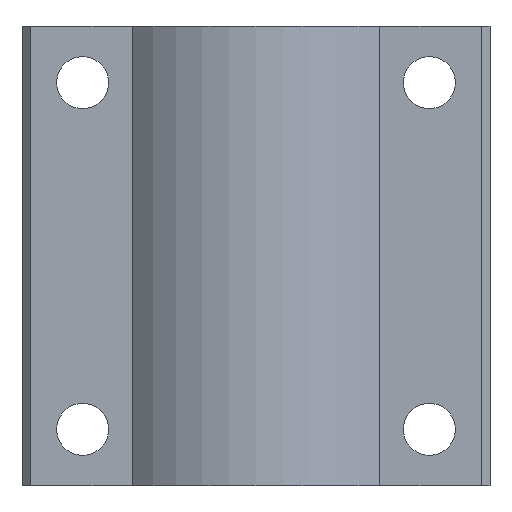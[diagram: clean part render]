
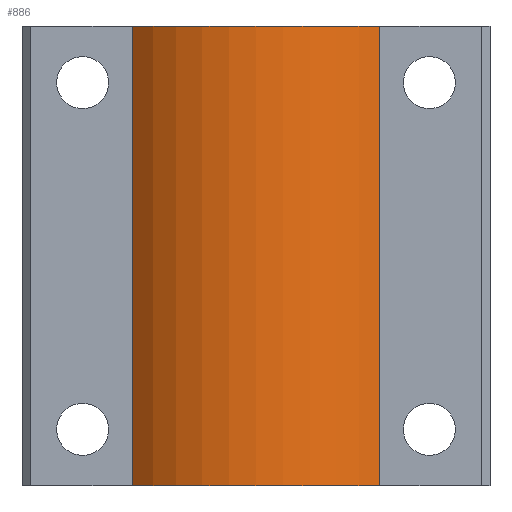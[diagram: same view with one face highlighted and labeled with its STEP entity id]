
A CAD part, front view. The second image highlights one B-rep face of the part: STEP entity #886.
In plain terms, the highlighted cylindrical face has radius 20 mm (diameter 40 mm), a partial arc.
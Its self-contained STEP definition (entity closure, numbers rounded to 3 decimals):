
#689=CARTESIAN_POINT('',(13.574,-9.802,-2.));
#690=VERTEX_POINT('',#689);
#697=CARTESIAN_POINT('',(-14.992,-9.802,-2.));
#698=VERTEX_POINT('',#697);
#699=CARTESIAN_POINT('',(-0.709,4.198,-2.));
#700=DIRECTION('',(0.0,0.0,1.0));
#701=DIRECTION('',(0.714,0.7,0.0));
#702=AXIS2_PLACEMENT_3D('',#699,#700,#701);
#703=CIRCLE('',#702,20.0);
#704=EDGE_CURVE('',#698,#690,#703,.T.);
#835=CARTESIAN_POINT('',(13.574,-9.802,51.));
#836=VERTEX_POINT('',#835);
#843=CARTESIAN_POINT('',(13.574,-9.802,51.));
#844=DIRECTION('',(0.0,0.0,-1.0));
#845=VECTOR('',#844,53.);
#846=LINE('',#843,#845);
#847=EDGE_CURVE('',#836,#690,#846,.T.);
#862=CARTESIAN_POINT('',(-0.709,4.198,24.5));
#863=DIRECTION('',(0.0,0.0,1.0));
#864=DIRECTION('',(0.714,0.7,0.0));
#865=AXIS2_PLACEMENT_3D('',#862,#863,#864);
#866=CYLINDRICAL_SURFACE('',#865,20.0);
#867=CARTESIAN_POINT('',(-14.992,-9.802,51.));
#868=VERTEX_POINT('',#867);
#869=CARTESIAN_POINT('',(-0.709,4.198,51.));
#870=DIRECTION('',(0.0,0.0,-1.0));
#871=DIRECTION('',(0.714,0.7,0.0));
#872=AXIS2_PLACEMENT_3D('',#869,#870,#871);
#873=CIRCLE('',#872,20.0);
#874=EDGE_CURVE('',#836,#868,#873,.T.);
#875=ORIENTED_EDGE('',*,*,#874,.T.);
#876=CARTESIAN_POINT('',(-14.992,-9.802,51.));
#877=DIRECTION('',(0.0,0.0,-1.0));
#878=VECTOR('',#877,53.);
#879=LINE('',#876,#878);
#880=EDGE_CURVE('',#868,#698,#879,.T.);
#881=ORIENTED_EDGE('',*,*,#880,.T.);
#882=ORIENTED_EDGE('',*,*,#704,.T.);
#883=ORIENTED_EDGE('',*,*,#847,.F.);
#884=EDGE_LOOP('',(#875,#881,#882,#883));
#885=FACE_OUTER_BOUND('',#884,.T.);
#886=ADVANCED_FACE('',(#885),#866,.T.);
